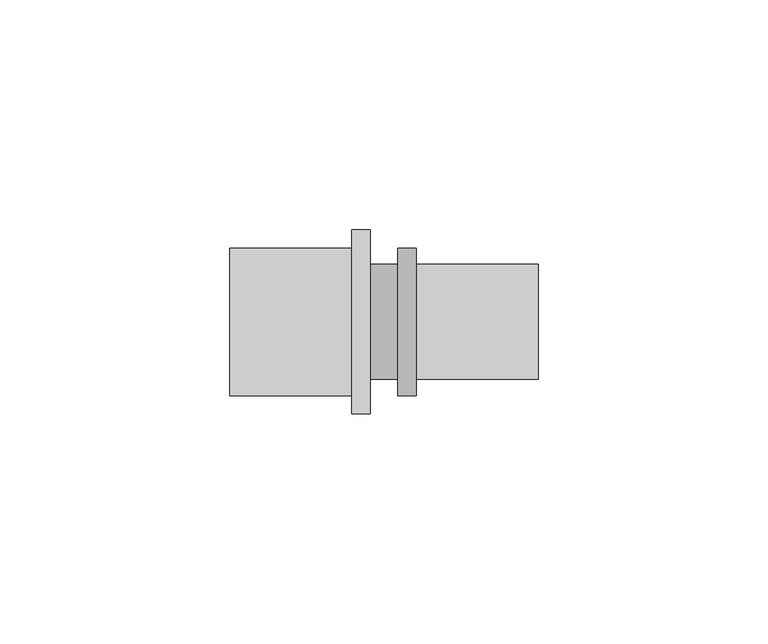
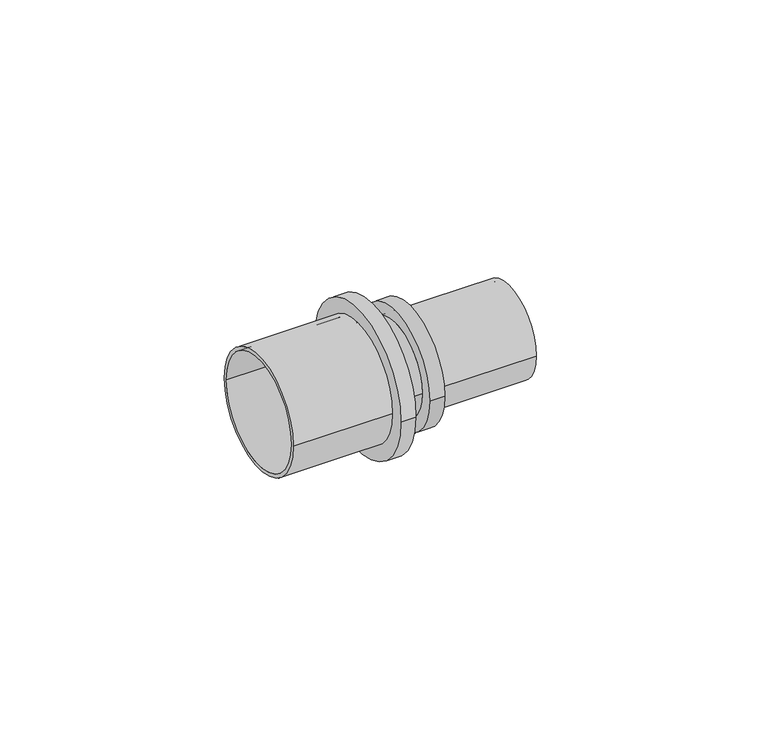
"""IFC4 building model written with IfcOpenShell, lengths in millimetres: pipe fitting geometry, БИР ПЕКС_НПР_Муфта редукционная : Муфта соединительная редукционная."""

from ifc_helpers import new_model, si_unit, point, frame, origin, origin_2d, place, context, project, spatial, circle_curve, trimmed, segment, composite_curve, outline, extrude, source, transform, mapped, element, save


def pipe_fitting_be198281(model_context):
    return source(origin(), model_context, "Body", "SweptSolid", [
        extrude(outline(composite_curve([segment(trimmed(circle_curve(origin_2d(), 12.5), [point((-12.5, 0.0))], [point((12.5, 0.0))], False, "CARTESIAN"), True, "CONTINUOUS"), segment(trimmed(circle_curve(origin_2d(), 12.5), [point((12.5, 0.0))], [point((-12.5, 0.0))], False, "CARTESIAN"), True, "CONTINUOUS")], self_intersect=False)), frame((-3.0, 0.0, 0.0), z_axis=(1.0, 0.0, 0.0), x_axis=(0.0, 1.0, 0.0)), (0.0, 0.0, 1.0), 6.0),
        extrude(outline(composite_curve([segment(trimmed(circle_curve(origin_2d(), 12.5), [point((-12.5, 0.0))], [point((12.5, 0.0))], False, "CARTESIAN"), True, "CONTINUOUS"), segment(trimmed(circle_curve(origin_2d(), 12.5), [point((12.5, 0.0))], [point((-12.5, 0.0))], False, "CARTESIAN"), True, "CONTINUOUS")], self_intersect=False), holes=[composite_curve([segment(trimmed(circle_curve(origin_2d(), 11.5), [point((-11.5, 0.0))], [point((11.5, 0.0))], True, "CARTESIAN"), True, "CONTINUOUS"), segment(trimmed(circle_curve(origin_2d(), 11.5), [point((11.5, 0.0))], [point((-11.5, 0.0))], True, "CARTESIAN"), True, "CONTINUOUS")], self_intersect=False)]), frame((7.0, 0.0, 0.0), z_axis=(1.0, 0.0, 0.0), x_axis=(0.0, 1.0, 0.0)), (0.0, 0.0, 1.0), 26.5),
        extrude(outline(composite_curve([segment(trimmed(circle_curve(origin_2d(), 16.0), [point((-16.0, 0.0))], [point((16.0, 0.0))], False, "CARTESIAN"), True, "CONTINUOUS"), segment(trimmed(circle_curve(origin_2d(), 16.0), [point((16.0, 0.0))], [point((-16.0, 0.0))], False, "CARTESIAN"), True, "CONTINUOUS")], self_intersect=False), holes=[composite_curve([segment(trimmed(circle_curve(origin_2d(), 15.0), [point((-15.0, 0.0))], [point((15.0, 0.0))], True, "CARTESIAN"), True, "CONTINUOUS"), segment(trimmed(circle_curve(origin_2d(), 15.0), [point((15.0, 0.0))], [point((-15.0, 0.0))], True, "CARTESIAN"), True, "CONTINUOUS")], self_intersect=False)]), frame((-33.5, 0.0, 0.0), z_axis=(1.0, 0.0, 0.0), x_axis=(0.0, 1.0, 0.0)), (0.0, 0.0, 1.0), 26.5),
        extrude(outline(composite_curve([segment(trimmed(circle_curve(origin_2d(), 16.0), [point((-16.0, 0.0))], [point((16.0, 0.0))], False, "CARTESIAN"), True, "CONTINUOUS"), segment(trimmed(circle_curve(origin_2d(), 16.0), [point((16.0, 0.0))], [point((-16.0, 0.0))], False, "CARTESIAN"), True, "CONTINUOUS")], self_intersect=False), holes=[composite_curve([segment(trimmed(circle_curve(origin_2d(), 12.5), [point((-12.5, 0.0))], [point((12.5, 0.0))], True, "CARTESIAN"), True, "CONTINUOUS"), segment(trimmed(circle_curve(origin_2d(), 12.5), [point((12.5, 0.0))], [point((-12.5, 0.0))], True, "CARTESIAN"), True, "CONTINUOUS")], self_intersect=False)]), frame((3.0, 0.0, 0.0), z_axis=(1.0, 0.0, 0.0), x_axis=(0.0, 1.0, 0.0)), (0.0, 0.0, 1.0), 4.0),
        extrude(outline(composite_curve([segment(trimmed(circle_curve(origin_2d(), 20.0), [point((-20.0, 0.0))], [point((20.0, 0.0))], False, "CARTESIAN"), True, "CONTINUOUS"), segment(trimmed(circle_curve(origin_2d(), 20.0), [point((20.0, 0.0))], [point((-20.0, 0.0))], False, "CARTESIAN"), True, "CONTINUOUS")], self_intersect=False), holes=[composite_curve([segment(trimmed(circle_curve(origin_2d(), 12.5), [point((-12.5, 0.0))], [point((12.5, 0.0))], True, "CARTESIAN"), True, "CONTINUOUS"), segment(trimmed(circle_curve(origin_2d(), 12.5), [point((12.5, 0.0))], [point((-12.5, 0.0))], True, "CARTESIAN"), True, "CONTINUOUS")], self_intersect=False)]), frame((-7.0, 0.0, 0.0), z_axis=(1.0, 0.0, 0.0), x_axis=(0.0, 1.0, 0.0)), (0.0, 0.0, 1.0), 4.0),
    ])


if __name__ == "__main__":
    model = new_model("IFC4")
    model_context = context("Model", 3, world=origin())
    ifc_project = project(units=[si_unit("LENGTHUNIT", "METRE", prefix="MILLI")], contexts=[model_context])
    site = spatial("IfcSite", under=ifc_project)
    building = spatial("IfcBuilding", under=site)
    placement = place(None, origin())
    pipe_fitting_shape = pipe_fitting_be198281(model_context)
    element("IfcPipeFitting", 1, ObjectType="БИР ПЕКС_НПР_Муфта редукционная : Муфта соединительная редукционная", at=placement, inside=building, context=model_context, shape_type="MappedRepresentation", body=[
        mapped(pipe_fitting_shape, transform((0.0, 0.0, 0.0), x_axis=(1.0, 0.0, 0.0), y_axis=(0.0, 1.0, 0.0), z_axis=(0.0, 0.0, 1.0))),
    ])
    save(model, "model.ifc")
